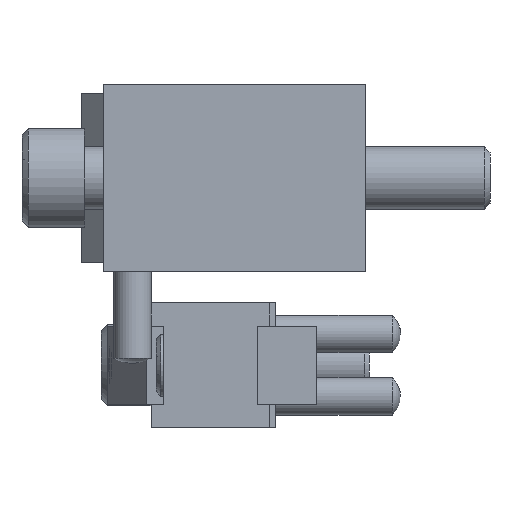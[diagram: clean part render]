
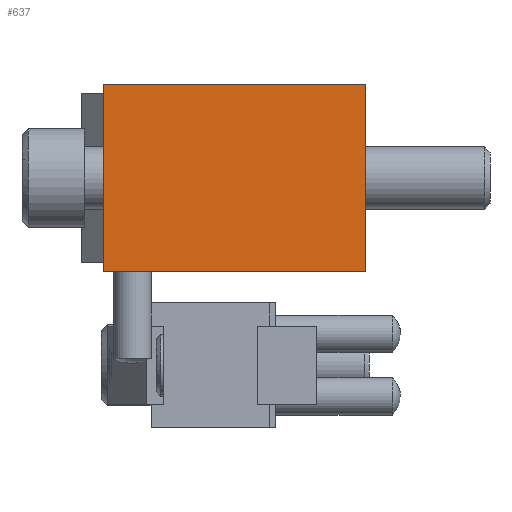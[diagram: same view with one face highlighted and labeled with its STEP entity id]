
A CAD part, left-side view. The second image highlights one B-rep face of the part: STEP entity #637.
In plain terms, the highlighted planar face has unit normal (-1, 0, 0).
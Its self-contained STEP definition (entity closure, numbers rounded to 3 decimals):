
#637 = ADVANCED_FACE( '', ( #1201 ), #1202, .F. );
#1201 = FACE_OUTER_BOUND( '', #1888, .T. );
#1202 = PLANE( '', #1889 );
#1888 = EDGE_LOOP( '', ( #2794, #2795, #2796, #2797 ) );
#1889 = AXIS2_PLACEMENT_3D( '', #2798, #2799, #2800 );
#2794 = ORIENTED_EDGE( '', *, *, #4113, .T. );
#2795 = ORIENTED_EDGE( '', *, *, #4114, .F. );
#2796 = ORIENTED_EDGE( '', *, *, #4115, .F. );
#2797 = ORIENTED_EDGE( '', *, *, #4004, .T. );
#2798 = CARTESIAN_POINT( '', ( 0., 42., -15. ) );
#2799 = DIRECTION( '', ( 1., 0., 0. ) );
#2800 = DIRECTION( '', ( 0., 0., -1. ) );
#4004 = EDGE_CURVE( '', #4655, #4653, #4656, .T. );
#4113 = EDGE_CURVE( '', #4653, #4834, #4835, .T. );
#4114 = EDGE_CURVE( '', #4836, #4834, #4837, .T. );
#4115 = EDGE_CURVE( '', #4655, #4836, #4838, .T. );
#4653 = VERTEX_POINT( '', #5551 );
#4655 = VERTEX_POINT( '', #5554 );
#4656 = LINE( '', #5555, #5556 );
#4834 = VERTEX_POINT( '', #5809 );
#4835 = LINE( '', #5810, #5811 );
#4836 = VERTEX_POINT( '', #5812 );
#4837 = LINE( '', #5813, #5814 );
#4838 = LINE( '', #5815, #5816 );
#5551 = CARTESIAN_POINT( '', ( 0., 0., -15. ) );
#5554 = CARTESIAN_POINT( '', ( 0., 42., -15. ) );
#5555 = CARTESIAN_POINT( '', ( 0., 42., -15. ) );
#5556 = VECTOR( '', #6562, 1000. );
#5809 = CARTESIAN_POINT( '', ( 0., 0., 15. ) );
#5810 = CARTESIAN_POINT( '', ( 0., 0., -15. ) );
#5811 = VECTOR( '', #6684, 1000. );
#5812 = CARTESIAN_POINT( '', ( 0., 42., 15. ) );
#5813 = CARTESIAN_POINT( '', ( 0., 42., 15. ) );
#5814 = VECTOR( '', #6685, 1000. );
#5815 = CARTESIAN_POINT( '', ( 0., 42., -15. ) );
#5816 = VECTOR( '', #6686, 1000. );
#6562 = DIRECTION( '', ( 0., -1., 0. ) );
#6684 = DIRECTION( '', ( 0., 0., 1. ) );
#6685 = DIRECTION( '', ( 0., -1., 0. ) );
#6686 = DIRECTION( '', ( 0., 0., 1. ) );
